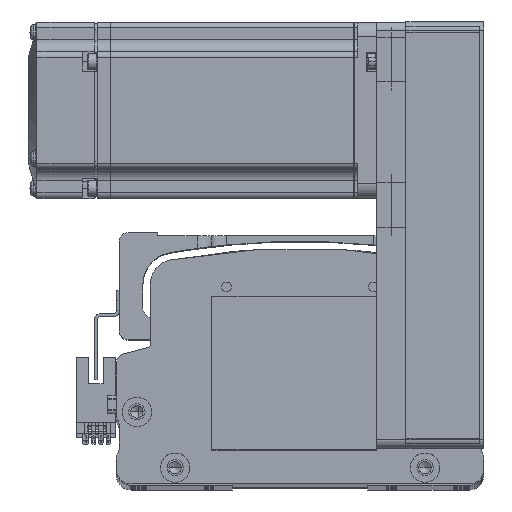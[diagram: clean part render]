
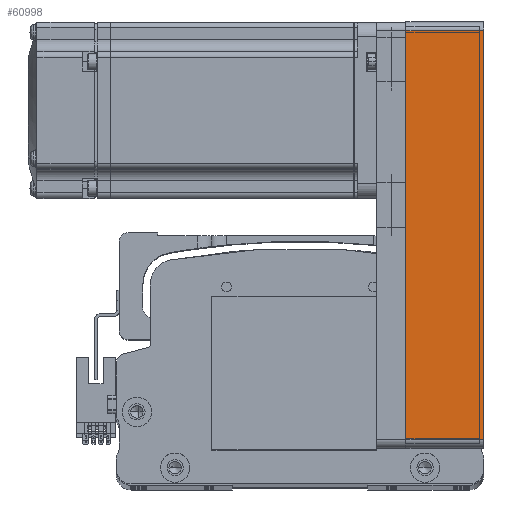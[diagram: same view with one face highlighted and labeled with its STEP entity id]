
A CAD part, top view. The second image highlights one B-rep face of the part: STEP entity #60998.
In plain terms, the highlighted planar face has unit normal (0, 0, 1) as drawn and (0, 1, 0) by its records, which use the part's own axes.
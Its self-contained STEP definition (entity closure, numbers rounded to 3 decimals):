
#246 = CARTESIAN_POINT ( 'NONE',  ( -69.5, 30., 26.5 ) ) ;
#4526 = LINE ( 'NONE', #16795, #36729 ) ;
#5852 = DIRECTION ( 'NONE',  ( -1., 0., 0. ) ) ;
#8073 = VERTEX_POINT ( 'NONE', #13025 ) ;
#9859 = ORIENTED_EDGE ( 'NONE', *, *, #82698, .T. ) ;
#11399 = VERTEX_POINT ( 'NONE', #57908 ) ;
#13025 = CARTESIAN_POINT ( 'NONE',  ( 69.5, 30., 0. ) ) ;
#13578 = AXIS2_PLACEMENT_3D ( 'NONE', #61246, #22662, #67739 ) ;
#14313 = VECTOR ( 'NONE', #82574, 1000. ) ;
#15108 = EDGE_CURVE ( 'NONE', #40127, #8073, #16320, .T. ) ;
#16320 = LINE ( 'NONE', #18420, #14313 ) ;
#16795 = CARTESIAN_POINT ( 'NONE',  ( 72.5, 30., 26.5 ) ) ;
#18420 = CARTESIAN_POINT ( 'NONE',  ( 69.5, 30., 26.5 ) ) ;
#20048 = LINE ( 'NONE', #60330, #35103 ) ;
#22662 = DIRECTION ( 'NONE',  ( 0., -1., 0. ) ) ;
#23354 = VECTOR ( 'NONE', #5852, 1000. ) ;
#35103 = VECTOR ( 'NONE', #47379, 1000. ) ;
#36323 = EDGE_CURVE ( 'NONE', #11399, #69210, #20048, .T. ) ;
#36729 = VECTOR ( 'NONE', #68894, 1000. ) ;
#36771 = EDGE_LOOP ( 'NONE', ( #9859, #62803, #78107, #58848 ) ) ;
#40127 = VERTEX_POINT ( 'NONE', #53677 ) ;
#47379 = DIRECTION ( 'NONE',  ( 0., 0., 1. ) ) ;
#50601 = CARTESIAN_POINT ( 'NONE',  ( 72.5, 30., 0. ) ) ;
#53677 = CARTESIAN_POINT ( 'NONE',  ( 69.5, 30., 26.5 ) ) ;
#57198 = FACE_OUTER_BOUND ( 'NONE', #36771, .T. ) ;
#57908 = CARTESIAN_POINT ( 'NONE',  ( -69.5, 30., 0. ) ) ;
#58848 = ORIENTED_EDGE ( 'NONE', *, *, #15108, .T. ) ;
#60330 = CARTESIAN_POINT ( 'NONE',  ( -69.5, 30., 26.5 ) ) ;
#60972 = PLANE ( 'NONE',  #13578 ) ;
#60998 = ADVANCED_FACE ( 'NONE', ( #57198 ), #60972, .F. ) ;
#61246 = CARTESIAN_POINT ( 'NONE',  ( 72.5, 30., 26.5 ) ) ;
#62803 = ORIENTED_EDGE ( 'NONE', *, *, #36323, .T. ) ;
#67739 = DIRECTION ( 'NONE',  ( 1., 0., 0. ) ) ;
#68894 = DIRECTION ( 'NONE',  ( -1., 0., 0. ) ) ;
#69210 = VERTEX_POINT ( 'NONE', #246 ) ;
#74755 = LINE ( 'NONE', #50601, #23354 ) ;
#78107 = ORIENTED_EDGE ( 'NONE', *, *, #81107, .F. ) ;
#81107 = EDGE_CURVE ( 'NONE', #40127, #69210, #4526, .T. ) ;
#82574 = DIRECTION ( 'NONE',  ( 0., 0., -1. ) ) ;
#82698 = EDGE_CURVE ( 'NONE', #8073, #11399, #74755, .T. ) ;
